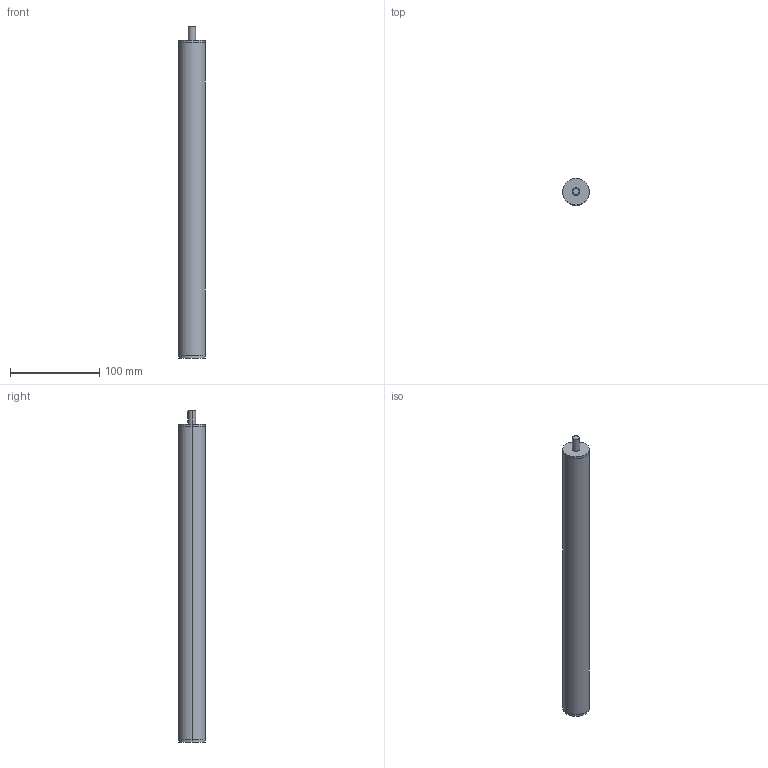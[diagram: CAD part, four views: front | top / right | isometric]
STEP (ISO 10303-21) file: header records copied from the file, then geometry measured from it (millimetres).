
FILE_DESCRIPTION (( 'STEP AP214' ), '1' );
FILE_NAME ('291-30-150-L1-SCR.step', '2023-08-30T05:20:01', ( '' ), ( '' ), 'SwSTEP 2.0', 'SolidWorks 2022', '' );
FILE_SCHEMA (( 'AUTOMOTIVE_DESIGN' ));
Length unit declared in the file: millimetre
Products named in the file (3): 291-30-150-L1-SCR; WB2910 mutter^WBVES_Tr14-M4; WB2910 Rund^WBVES_30-150-1
Assembly tree (2 placements, depth 2):
  291-30-150-L1-SCR
    WB2910 mutter^WBVES_Tr14-M4
    WB2910 Rund^WBVES_30-150-1
Bounding box: 30 x 30 x 371 mm (x, y, z)
Volume: 115355.8 mm3; surface area: 85004.3 mm2
Topology: 2 solids, 2 shells, 48 faces, 112 edges, 70 vertices
Faces by surface type: cylinder 25, plane 17, cone 6
Entity records: 1823 total; most frequent: CARTESIAN_POINT 402, DIRECTION 246, ORIENTED_EDGE 216, EDGE_CURVE 108, AXIS2_PLACEMENT_3D 96, VERTEX_POINT 70, EDGE_LOOP 58, LINE 54
